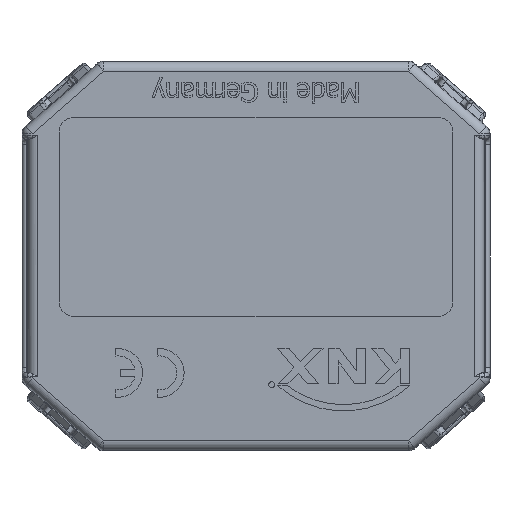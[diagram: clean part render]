
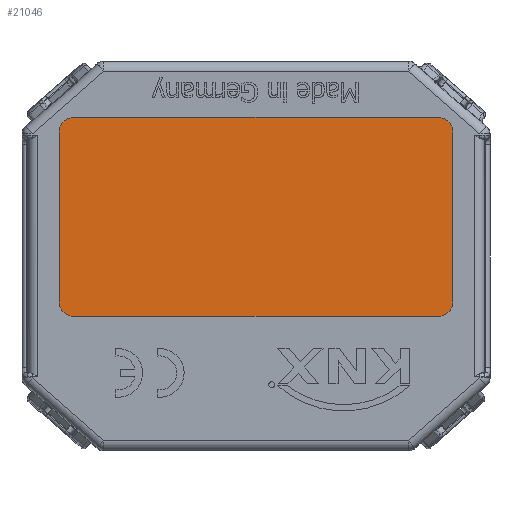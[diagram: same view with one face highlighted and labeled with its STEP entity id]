
A CAD part, top view. The second image highlights one B-rep face of the part: STEP entity #21046.
In plain terms, the highlighted planar face has unit normal (0, 0, 1).
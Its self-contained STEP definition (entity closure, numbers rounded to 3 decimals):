
#1274=PLANE('',#22485);
#2030=FACE_OUTER_BOUND('',#3200,.T.);
#3200=EDGE_LOOP('',(#14678,#14679,#14680,#14681,#14682,#14683,#14684,#14685));
#4618=LINE('',#30559,#6574);
#4619=LINE('',#30563,#6575);
#4620=LINE('',#30567,#6576);
#4621=LINE('',#30571,#6577);
#6574=VECTOR('',#24842,37.4);
#6575=VECTOR('',#24845,17.4);
#6576=VECTOR('',#24848,37.4);
#6577=VECTOR('',#24851,17.4);
#8231=CIRCLE('',#22486,1.5);
#8232=CIRCLE('',#22487,1.5);
#8233=CIRCLE('',#22488,1.5);
#8234=CIRCLE('',#22489,1.5);
#8913=VERTEX_POINT('',#30557);
#8914=VERTEX_POINT('',#30558);
#8915=VERTEX_POINT('',#30560);
#8916=VERTEX_POINT('',#30562);
#8917=VERTEX_POINT('',#30564);
#8918=VERTEX_POINT('',#30566);
#8919=VERTEX_POINT('',#30568);
#8920=VERTEX_POINT('',#30570);
#11098=EDGE_CURVE('',#8913,#8914,#4618,.T.);
#11099=EDGE_CURVE('',#8915,#8913,#8231,.T.);
#11100=EDGE_CURVE('',#8916,#8915,#4619,.T.);
#11101=EDGE_CURVE('',#8917,#8916,#8232,.T.);
#11102=EDGE_CURVE('',#8918,#8917,#4620,.T.);
#11103=EDGE_CURVE('',#8919,#8918,#8233,.T.);
#11104=EDGE_CURVE('',#8920,#8919,#4621,.T.);
#11105=EDGE_CURVE('',#8914,#8920,#8234,.T.);
#14678=ORIENTED_EDGE('',*,*,#11098,.F.);
#14679=ORIENTED_EDGE('',*,*,#11099,.F.);
#14680=ORIENTED_EDGE('',*,*,#11100,.F.);
#14681=ORIENTED_EDGE('',*,*,#11101,.F.);
#14682=ORIENTED_EDGE('',*,*,#11102,.F.);
#14683=ORIENTED_EDGE('',*,*,#11103,.F.);
#14684=ORIENTED_EDGE('',*,*,#11104,.F.);
#14685=ORIENTED_EDGE('',*,*,#11105,.F.);
#21046=ADVANCED_FACE('',(#2030),#1274,.T.);
#22485=AXIS2_PLACEMENT_3D('',#30556,#24840,#24841);
#22486=AXIS2_PLACEMENT_3D('',#30561,#24843,#24844);
#22487=AXIS2_PLACEMENT_3D('',#30565,#24846,#24847);
#22488=AXIS2_PLACEMENT_3D('',#30569,#24849,#24850);
#22489=AXIS2_PLACEMENT_3D('',#30572,#24852,#24853);
#24840=DIRECTION('center_axis',(0.,0.,1.));
#24841=DIRECTION('ref_axis',(1.,0.,0.));
#24842=DIRECTION('',(1.,0.,0.));
#24843=DIRECTION('center_axis',(0.,0.,-1.));
#24844=DIRECTION('ref_axis',(0.,1.,0.));
#24845=DIRECTION('',(0.,1.,0.));
#24846=DIRECTION('center_axis',(0.,0.,-1.));
#24847=DIRECTION('ref_axis',(-1.,0.,0.));
#24848=DIRECTION('',(-1.,0.,0.));
#24849=DIRECTION('center_axis',(0.,0.,-1.));
#24850=DIRECTION('ref_axis',(0.,-1.,0.));
#24851=DIRECTION('',(0.,-1.,0.));
#24852=DIRECTION('center_axis',(0.,0.,-1.));
#24853=DIRECTION('ref_axis',(1.,0.,0.));
#30556=CARTESIAN_POINT('Origin',(0.,4.,4.95));
#30557=CARTESIAN_POINT('',(-18.7,14.2,4.95));
#30558=CARTESIAN_POINT('',(18.7,14.2,4.95));
#30559=CARTESIAN_POINT('',(18.7,14.2,4.95));
#30560=CARTESIAN_POINT('',(-20.2,12.7,4.95));
#30561=CARTESIAN_POINT('Origin',(-18.7,12.7,4.95));
#30562=CARTESIAN_POINT('',(-20.2,-4.7,4.95));
#30563=CARTESIAN_POINT('',(-20.2,12.7,4.95));
#30564=CARTESIAN_POINT('',(-18.7,-6.2,4.95));
#30565=CARTESIAN_POINT('Origin',(-18.7,-4.7,4.95));
#30566=CARTESIAN_POINT('',(18.7,-6.2,4.95));
#30567=CARTESIAN_POINT('',(-18.7,-6.2,4.95));
#30568=CARTESIAN_POINT('',(20.2,-4.7,4.95));
#30569=CARTESIAN_POINT('Origin',(18.7,-4.7,4.95));
#30570=CARTESIAN_POINT('',(20.2,12.7,4.95));
#30571=CARTESIAN_POINT('',(20.2,-4.7,4.95));
#30572=CARTESIAN_POINT('Origin',(18.7,12.7,4.95));
